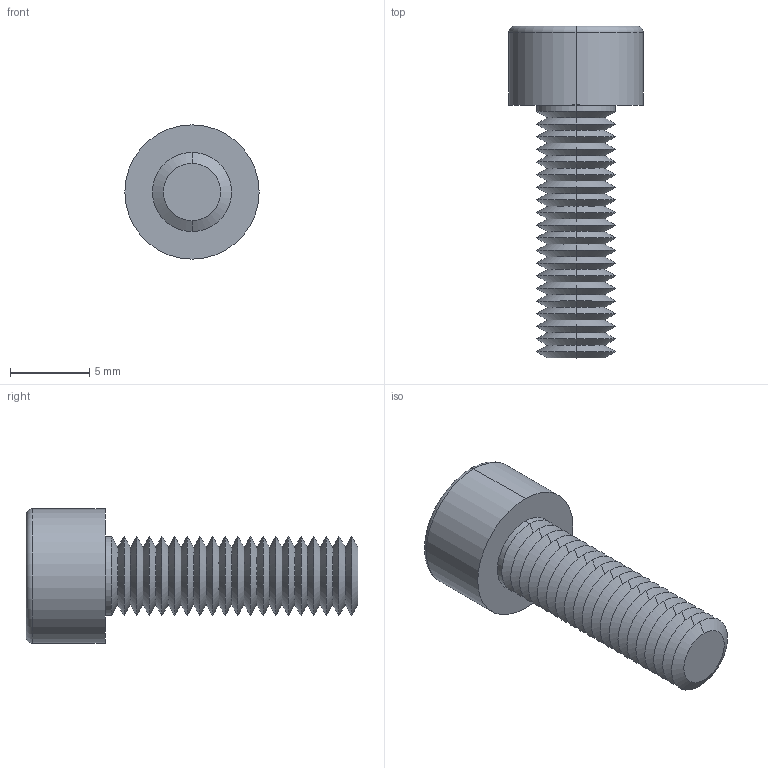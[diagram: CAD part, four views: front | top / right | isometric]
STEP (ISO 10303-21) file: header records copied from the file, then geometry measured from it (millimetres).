
FILE_DESCRIPTION (( 'STEP AP203' ), '1' );
FILE_NAME ('91N.050.0160.step', '2025-05-20T08:51:43', ( '' ), ( '' ), 'SwSTEP 2.0', 'SolidWorks 2019', '' );
FILE_SCHEMA (( 'CONFIG_CONTROL_DESIGN' ));
Length unit declared in the file: millimetre
Products named in the file (1): 91N.050.0160
Bounding box: 8.5 x 21 x 8.5 mm (x, y, z)
Volume: 459.6 mm3; surface area: 718.2 mm2
Topology: 1 solids, 1 shells, 108 faces, 215 edges, 109 vertices
Faces by surface type: cone 87, plane 15, cylinder 4, torus 2
Entity records: 2778 total; most frequent: DIRECTION 527, CARTESIAN_POINT 458, ORIENTED_EDGE 426, EDGE_CURVE 213, AXIS2_PLACEMENT_3D 212, EDGE_LOOP 110, VERTEX_POINT 109, FACE_OUTER_BOUND 108
